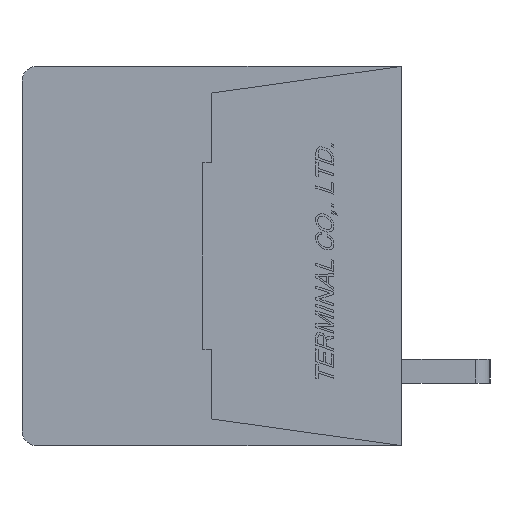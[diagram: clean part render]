
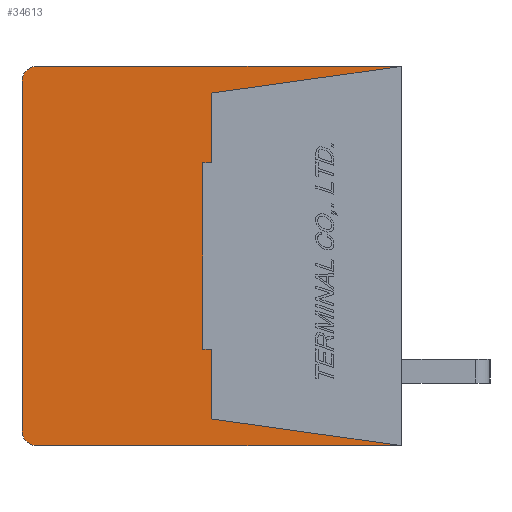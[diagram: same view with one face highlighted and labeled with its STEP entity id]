
A CAD part, left-side view. The second image highlights one B-rep face of the part: STEP entity #34613.
In plain terms, the highlighted planar face has unit normal (-1, 0, 0).
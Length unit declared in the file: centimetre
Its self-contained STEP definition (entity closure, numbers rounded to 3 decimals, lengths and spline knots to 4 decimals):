
#1792=CIRCLE('',#59171,0.05);
#1793=CIRCLE('',#59174,0.05);
#3229=VERTEX_POINT('',#48405);
#3230=VERTEX_POINT('',#48407);
#3231=VERTEX_POINT('',#48411);
#3232=VERTEX_POINT('',#48415);
#3233=VERTEX_POINT('',#48419);
#3234=VERTEX_POINT('',#48423);
#3235=VERTEX_POINT('',#48426);
#3236=VERTEX_POINT('',#48428);
#3237=VERTEX_POINT('',#48430);
#3238=VERTEX_POINT('',#48432);
#3239=VERTEX_POINT('',#48434);
#3240=VERTEX_POINT('',#48436);
#6843=VECTOR('',#40149,1.);
#6847=VECTOR('',#40158,1.);
#6850=VECTOR('',#40166,1.);
#6851=VECTOR('',#40167,1.);
#6852=VECTOR('',#40168,1.);
#6853=VECTOR('',#40169,1.);
#6854=VECTOR('',#40170,1.);
#6855=VECTOR('',#40171,1.);
#6856=VECTOR('',#40172,1.);
#6857=VECTOR('',#40173,1.);
#10915=LINE('',#48406,#6843);
#10919=LINE('',#48416,#6847);
#10922=LINE('',#48424,#6850);
#10923=LINE('',#48425,#6851);
#10924=LINE('',#48427,#6852);
#10925=LINE('',#48429,#6853);
#10926=LINE('',#48431,#6854);
#10927=LINE('',#48433,#6855);
#10928=LINE('',#48435,#6856);
#10929=LINE('',#48437,#6857);
#15495=EDGE_CURVE('',#3230,#3229,#10915,.T.);
#15498=EDGE_CURVE('',#3231,#3229,#1792,.T.);
#15500=EDGE_CURVE('',#3231,#3232,#10919,.T.);
#15502=EDGE_CURVE('',#3233,#3232,#1793,.T.);
#15504=EDGE_CURVE('',#3233,#3234,#10922,.T.);
#15505=EDGE_CURVE('',#3235,#3230,#10923,.T.);
#15506=EDGE_CURVE('',#3234,#3236,#10924,.T.);
#15507=EDGE_CURVE('',#3236,#3237,#10925,.T.);
#15508=EDGE_CURVE('',#3237,#3238,#10926,.T.);
#15509=EDGE_CURVE('',#3238,#3239,#10927,.T.);
#15510=EDGE_CURVE('',#3239,#3240,#10928,.T.);
#15511=EDGE_CURVE('',#3240,#3235,#10929,.T.);
#22505=ORIENTED_EDGE('',*,*,#15505,.T.);
#22506=ORIENTED_EDGE('',*,*,#15495,.T.);
#22507=ORIENTED_EDGE('',*,*,#15498,.F.);
#22508=ORIENTED_EDGE('',*,*,#15500,.T.);
#22509=ORIENTED_EDGE('',*,*,#15502,.F.);
#22510=ORIENTED_EDGE('',*,*,#15504,.T.);
#22511=ORIENTED_EDGE('',*,*,#15506,.T.);
#22512=ORIENTED_EDGE('',*,*,#15507,.T.);
#22513=ORIENTED_EDGE('',*,*,#15508,.T.);
#22514=ORIENTED_EDGE('',*,*,#15509,.T.);
#22515=ORIENTED_EDGE('',*,*,#15510,.T.);
#22516=ORIENTED_EDGE('',*,*,#15511,.T.);
#30165=EDGE_LOOP('',(#22505,#22506,#22507,#22508,#22509,#22510,#22511,#22512,
#22513,#22514,#22515,#22516));
#32437=FACE_BOUND('',#30165,.T.);
#34613=ADVANCED_FACE('',(#32437),#36476,.F.);
#36476=PLANE('',#59168);
#40035=DIRECTION('',(1.,0.,0.));
#40149=DIRECTION('',(0.,1.,0.));
#40154=DIRECTION('',(1.,0.,0.));
#40155=DIRECTION('',(0.,0.,-0.05));
#40158=DIRECTION('',(0.,0.,-1.));
#40162=DIRECTION('',(1.,0.,0.));
#40163=DIRECTION('',(0.,0.,-0.05));
#40166=DIRECTION('',(0.,-1.,0.));
#40167=DIRECTION('',(0.,-0.99,0.139));
#40168=DIRECTION('',(0.,0.99,0.139));
#40169=DIRECTION('',(0.,0.,1.));
#40170=DIRECTION('',(0.,1.,0.));
#40171=DIRECTION('',(0.,0.,1.));
#40172=DIRECTION('',(0.,-1.,0.));
#40173=DIRECTION('',(0.,0.,1.));
#47972=CARTESIAN_POINT('',(-0.889,0.6345,0.));
#48405=CARTESIAN_POINT('',(-0.889,1.23,0.64));
#48406=CARTESIAN_POINT('',(-0.889,0.,0.64));
#48407=CARTESIAN_POINT('',(-0.889,0.,0.64));
#48411=CARTESIAN_POINT('',(-0.889,1.28,0.59));
#48412=CARTESIAN_POINT('',(-0.889,1.23,0.59));
#48415=CARTESIAN_POINT('',(-0.889,1.28,-0.59));
#48416=CARTESIAN_POINT('',(-0.889,1.28,0.59));
#48419=CARTESIAN_POINT('',(-0.889,1.23,-0.64));
#48420=CARTESIAN_POINT('',(-0.889,1.23,-0.59));
#48423=CARTESIAN_POINT('',(-0.889,0.,-0.64));
#48424=CARTESIAN_POINT('',(-0.889,1.23,-0.64));
#48425=CARTESIAN_POINT('',(-0.889,0.64,0.55));
#48426=CARTESIAN_POINT('',(-0.889,0.64,0.55));
#48427=CARTESIAN_POINT('',(-0.889,0.,-0.64));
#48428=CARTESIAN_POINT('',(-0.889,0.64,-0.55));
#48429=CARTESIAN_POINT('',(-0.889,0.64,-0.55));
#48430=CARTESIAN_POINT('',(-0.889,0.64,-0.315));
#48431=CARTESIAN_POINT('',(-0.889,0.64,-0.315));
#48432=CARTESIAN_POINT('',(-0.889,0.67,-0.315));
#48433=CARTESIAN_POINT('',(-0.889,0.67,-0.315));
#48434=CARTESIAN_POINT('',(-0.889,0.67,0.315));
#48435=CARTESIAN_POINT('',(-0.889,0.67,0.315));
#48436=CARTESIAN_POINT('',(-0.889,0.64,0.315));
#48437=CARTESIAN_POINT('',(-0.889,0.64,0.315));
#59168=AXIS2_PLACEMENT_3D('',#47972,#40035,$);
#59171=AXIS2_PLACEMENT_3D('',#48412,#40154,#40155);
#59174=AXIS2_PLACEMENT_3D('',#48420,#40162,#40163);
